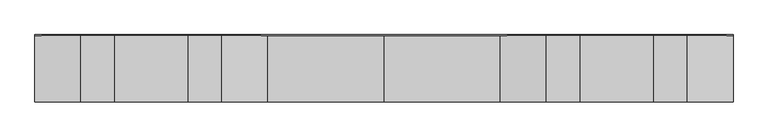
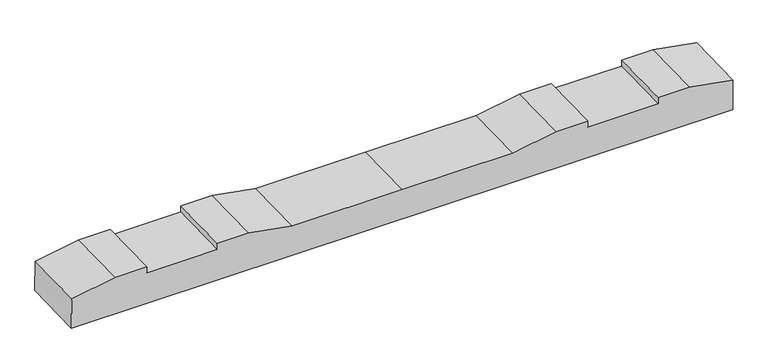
"""IFC4 building model written with IfcOpenShell, lengths in millimetres: proxy geometry, 轨枕-立面角度 : 轨枕-立面角度."""

from ifc_helpers import new_model, si_unit, frame, origin, place, context, project, spatial, polyline, outline, extrude, source, transform, mapped, element, save


def generic_models_1397490d(model_context):
    return source(origin(), model_context, "Body", "SweptSolid", [
        extrude(outline(polyline([(0.0, 0.0), (2099.7669328, 0.0), (2099.7669328, -100.0206889), (1961.8834664, -124.5), (1861.8834664, -124.5), (1861.8834664, -104.4999999), (1637.8834664, -104.4999999), (1637.8834664, -124.5), (1537.8834664, -124.5), (1399.8834664, -100.0), (1049.8834664, -100.0), (699.8834664, -100.0), (561.8834664, -124.5), (461.8834664, -124.5), (461.8834664, -104.4999999), (237.8834664, -104.4999999), (237.8834664, -124.5), (137.8834664, -124.5), (0.0, -100.0206889), (0.0, 0.0)])), frame((-1049.8834664, -97.4107253, -106.9177281), z_axis=(0.0, 0.9997000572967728, 0.02449072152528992), x_axis=(1.0, 0.0, 0.0)), (0.0, 0.0, 1.0), 200.0),
    ])


if __name__ == "__main__":
    model = new_model("IFC4")
    model_context = context("Model", 3, world=origin())
    ifc_project = project(units=[si_unit("LENGTHUNIT", "METRE", prefix="MILLI")], contexts=[model_context])
    site = spatial("IfcSite", under=ifc_project)
    building = spatial("IfcBuilding", under=site)
    placement = place(None, origin())
    generic_models_shape = generic_models_1397490d(model_context)
    element("IfcBuildingElementProxy", 1, Name="轨枕-立面角度 : 轨枕-立面角度", ObjectType="轨枕-立面角度 : 轨枕-立面角度", at=placement, inside=building, context=model_context, shape_type="MappedRepresentation", body=[
        mapped(generic_models_shape, transform((0.0, 0.0, 0.0), x_axis=(1.0, 0.0, 0.0), y_axis=(0.0, 1.0, 0.0), z_axis=(0.0, 0.0, 1.0))),
    ])
    save(model, "model.ifc")
